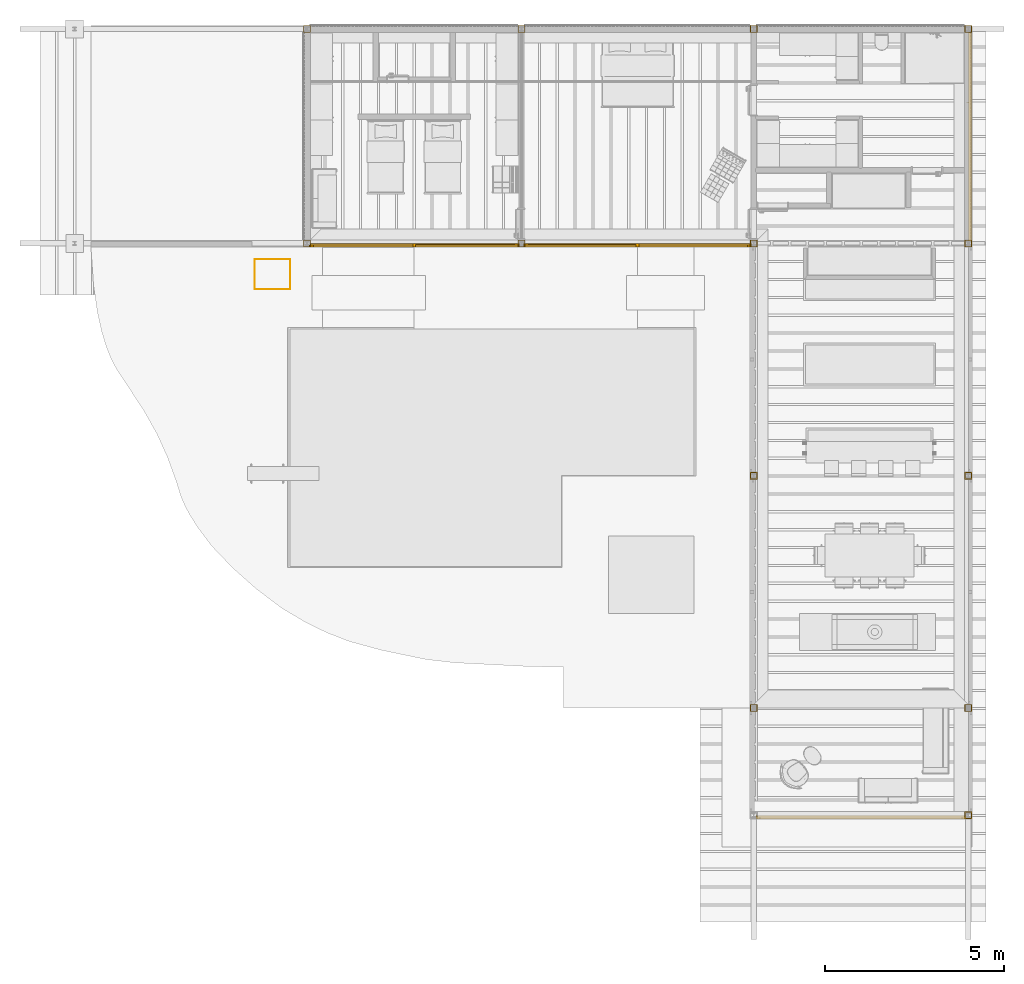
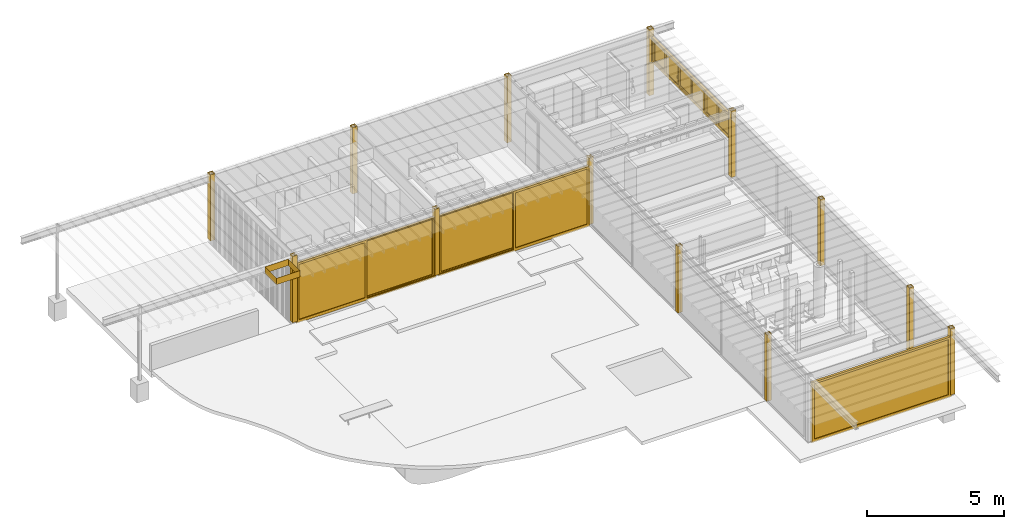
# One storey, part 20 of 28: 14 coverings, 4 windows.
"""IFC4X3_ADD2 building model written with IfcOpenShell, lengths in metres."""

from ifc_helpers import new_model, si_unit, direction, frame, frame_2d, origin_with_axes, origin_2d_with_axis, place, context, subcontext, project, spatial, polyline, rectangle, outline, extrude, faceted_brep, source, transform, mapped, material, type_object, type_shapes, element, save


model = new_model("IFC4X3_ADD2")

# Units and contexts
model_context = context("Model", 3, precision=1e-05, world=origin_with_axes(), true_north=direction((0.0, 1.0)))
body_context = subcontext(model_context, "Body", "Model", "MODEL_VIEW")
ifc_project = project(units=[si_unit("LENGTHUNIT", "METRE"), si_unit("AREAUNIT", "SQUARE_METRE"), si_unit("VOLUMEUNIT", "CUBIC_METRE"), si_unit("PLANEANGLEUNIT", "RADIAN"), si_unit("TIMEUNIT", "SECOND"), si_unit("MASSUNIT", "GRAM")], contexts=[model_context])

# Site, building, storey
site_placement = place(None, origin_with_axes())
site = spatial("IfcSite", under=ifc_project, at=site_placement, Name="Site", CompositionType="ELEMENT")
building_placement = place(site_placement, origin_with_axes())
building = spatial("IfcBuilding", under=site, at=building_placement, Name="Default Building")
storey_placement = place(building_placement, frame((0.0, 0.0, -0.08), z_axis=(0.0, 0.0, 1.0), x_axis=(1.0, 0.0, 0.0)))
storey = spatial("IfcBuildingStorey", under=building, at=storey_placement, Name="Gruendung", Elevation=-0.08)

# Windows
ifc_material = material(Name="Default")
window_type_1 = type_object("IfcWindowType", ParameterTakesPrecedence=False, PartitioningType="NOTDEFINED", PredefinedType="NOTDEFINED")
shared_shape_1 = source(origin_with_axes(), body_context, "Body", "SolidModel", [
    faceted_brep([(5.8, 0.08, 0.0), (5.8, 1.06, 0.0), (5.8, 1.06, -0.09999999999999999), (5.8, 0.08, -0.09999999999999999), (0.04000000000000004, 1.06, 0.0), (0.04000000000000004, 1.06, -0.09999999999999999), (0.04000000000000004, 0.08, 0.0), (0.04000000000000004, 0.08, -0.09999999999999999), (5.84, 0.0, -0.09999999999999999), (5.84, 1.1, -0.09999999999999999), (5.84, 1.1, 0.0), (5.84, 0.0, 0.0), (0.0, 1.1, -0.09999999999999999), (0.0, 1.1, 0.0), (0.0, 0.0, -0.09999999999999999), (0.0, 0.0, 0.0)], [[[0, 1, 2, 3]], [[1, 4, 5, 2]], [[4, 6, 7, 5]], [[6, 0, 3, 7]], [[8, 9, 10, 11]], [[9, 12, 13, 10]], [[12, 14, 15, 13]], [[8, 14, 12, 9], [2, 5, 7, 3]], [[14, 8, 11, 15]], [[13, 15, 11, 10], [1, 0, 6, 4]]]),
    faceted_brep([(5.72, 0.13, 0.0), (5.72, 1.01, 0.0), (5.72, 1.01, -0.04999999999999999), (5.72, 0.13, -0.04999999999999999), (4.88, 1.01, 0.0), (4.88, 1.01, -0.04999999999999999), (4.88, 0.13, 0.0), (4.88, 0.13, -0.04999999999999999), (5.8, 0.08, -0.04999999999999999), (5.8, 1.06, -0.04999999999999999), (5.8, 1.06, 0.0), (5.8, 0.08, 0.0), (4.8, 1.06, -0.04999999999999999), (4.8, 1.06, 0.0), (4.8, 0.08, -0.04999999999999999), (4.8, 0.08, 0.0)], [[[0, 1, 2, 3]], [[1, 4, 5, 2]], [[4, 6, 7, 5]], [[6, 0, 3, 7]], [[8, 9, 10, 11]], [[9, 12, 13, 10]], [[12, 14, 15, 13]], [[8, 14, 12, 9], [2, 5, 7, 3]], [[14, 8, 11, 15]], [[13, 15, 11, 10], [1, 0, 6, 4]]]),
    extrude(rectangle(XDim=0.88, YDim=0.8399999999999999, at=frame_2d((0.0, 0.0), x_axis=(0.0, 1.0))), frame((5.3, 0.57, -0.0265), z_axis=(0.0, 0.0, 1.0), x_axis=(1.0, 0.0, 0.0)), (0.0, 0.0, 1.0), 0.003000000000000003),
    faceted_brep([(4.8, 0.13, -0.04999999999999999), (4.8, 1.01, -0.04999999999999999), (4.8, 1.01, -0.09999999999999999), (4.8, 0.13, -0.09999999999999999), (3.92, 1.01, -0.04999999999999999), (3.92, 1.01, -0.09999999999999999), (3.92, 0.13, -0.04999999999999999), (3.92, 0.13, -0.09999999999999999), (4.88, 0.08, -0.09999999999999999), (4.88, 1.06, -0.09999999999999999), (4.88, 1.06, -0.04999999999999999), (4.88, 0.08, -0.04999999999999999), (3.84, 1.06, -0.09999999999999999), (3.84, 1.06, -0.04999999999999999), (3.84, 0.08, -0.09999999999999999), (3.84, 0.08, -0.04999999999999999)], [[[0, 1, 2, 3]], [[1, 4, 5, 2]], [[4, 6, 7, 5]], [[6, 0, 3, 7]], [[8, 9, 10, 11]], [[9, 12, 13, 10]], [[12, 14, 15, 13]], [[8, 14, 12, 9], [2, 5, 7, 3]], [[14, 8, 11, 15]], [[13, 15, 11, 10], [1, 0, 6, 4]]]),
    extrude(rectangle(XDim=0.8799999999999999, YDim=0.88, at=origin_2d_with_axis()), frame((4.359999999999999, 0.57, -0.0765), z_axis=(0.0, 0.0, 1.0), x_axis=(1.0, 0.0, 0.0)), (0.0, 0.0, 1.0), 0.003000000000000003),
    extrude(rectangle(XDim=0.05999999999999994, YDim=0.02500000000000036, at=frame_2d((0.0, 0.0), x_axis=(0.0, 1.0))), frame((3.88, 0.5700000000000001, -0.11), z_axis=(0.0, 0.0, 1.0), x_axis=(1.0, 0.0, 0.0)), (0.0, 0.0, 1.0), 0.009999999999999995),
    extrude(outline(polyline([(-0.01666666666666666, 0.07500000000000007), (-0.006666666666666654, 0.07500000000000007), (-0.006666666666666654, -0.02999999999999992), (0.02333333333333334, -0.02999999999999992), (0.02333333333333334, -0.04499999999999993), (-0.01666666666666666, -0.04499999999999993), (-0.01666666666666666, 0.07500000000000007)])), frame((3.872499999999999, 0.5325000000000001, -0.1333333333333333), z_axis=(1.0, 0.0, 0.0), x_axis=(0.0, 0.0, 1.0)), (0.0, 0.0, 1.0), 0.01500000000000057),
    faceted_brep([(3.84, 0.13, 0.0), (3.84, 1.01, 0.0), (3.84, 1.01, -0.04999999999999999), (3.84, 0.13, -0.04999999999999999), (2.96, 1.01, 0.0), (2.96, 1.01, -0.04999999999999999), (2.96, 0.13, 0.0), (2.96, 0.13, -0.04999999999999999), (3.92, 0.08, -0.04999999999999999), (3.92, 1.06, -0.04999999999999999), (3.92, 1.06, 0.0), (3.92, 0.08, 0.0), (2.88, 1.06, -0.04999999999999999), (2.88, 1.06, 0.0), (2.88, 0.08, -0.04999999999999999), (2.88, 0.08, 0.0)], [[[0, 1, 2, 3]], [[1, 4, 5, 2]], [[4, 6, 7, 5]], [[6, 0, 3, 7]], [[8, 9, 10, 11]], [[9, 12, 13, 10]], [[12, 14, 15, 13]], [[8, 14, 12, 9], [2, 5, 7, 3]], [[14, 8, 11, 15]], [[13, 15, 11, 10], [1, 0, 6, 4]]]),
    extrude(rectangle(XDim=0.8799999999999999, YDim=0.88, at=origin_2d_with_axis()), frame((3.4, 0.57, -0.0265), z_axis=(0.0, 0.0, 1.0), x_axis=(1.0, 0.0, 0.0)), (0.0, 0.0, 1.0), 0.003000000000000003),
    faceted_brep([(2.88, 0.13, -0.04999999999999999), (2.88, 1.01, -0.04999999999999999), (2.88, 1.01, -0.09999999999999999), (2.88, 0.13, -0.09999999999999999), (2.0, 1.01, -0.04999999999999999), (2.0, 1.01, -0.09999999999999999), (2.0, 0.13, -0.04999999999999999), (2.0, 0.13, -0.09999999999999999), (2.96, 0.08, -0.09999999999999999), (2.96, 1.06, -0.09999999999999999), (2.96, 1.06, -0.04999999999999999), (2.96, 0.08, -0.04999999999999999), (1.92, 1.06, -0.09999999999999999), (1.92, 1.06, -0.04999999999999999), (1.92, 0.08, -0.09999999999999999), (1.92, 0.08, -0.04999999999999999)], [[[0, 1, 2, 3]], [[1, 4, 5, 2]], [[4, 6, 7, 5]], [[6, 0, 3, 7]], [[8, 9, 10, 11]], [[9, 12, 13, 10]], [[12, 14, 15, 13]], [[8, 14, 12, 9], [2, 5, 7, 3]], [[14, 8, 11, 15]], [[13, 15, 11, 10], [1, 0, 6, 4]]]),
    extrude(rectangle(XDim=0.8799999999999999, YDim=0.88, at=origin_2d_with_axis()), frame((2.44, 0.57, -0.0765), z_axis=(0.0, 0.0, 1.0), x_axis=(1.0, 0.0, 0.0)), (0.0, 0.0, 1.0), 0.003000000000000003),
    faceted_brep([(1.92, 0.13, 0.0), (1.92, 1.01, 0.0), (1.92, 1.01, -0.04999999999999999), (1.92, 0.13, -0.04999999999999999), (1.04, 1.01, 0.0), (1.04, 1.01, -0.04999999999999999), (1.04, 0.13, 0.0), (1.04, 0.13, -0.04999999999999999), (2.0, 0.08, -0.04999999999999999), (2.0, 1.06, -0.04999999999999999), (2.0, 1.06, 0.0), (2.0, 0.08, 0.0), (0.96, 1.06, -0.04999999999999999), (0.96, 1.06, 0.0), (0.96, 0.08, -0.04999999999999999), (0.96, 0.08, 0.0)], [[[0, 1, 2, 3]], [[1, 4, 5, 2]], [[4, 6, 7, 5]], [[6, 0, 3, 7]], [[8, 9, 10, 11]], [[9, 12, 13, 10]], [[12, 14, 15, 13]], [[8, 14, 12, 9], [2, 5, 7, 3]], [[14, 8, 11, 15]], [[13, 15, 11, 10], [1, 0, 6, 4]]]),
    extrude(rectangle(XDim=0.8799999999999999, YDim=0.88, at=origin_2d_with_axis()), frame((1.48, 0.57, -0.0265), z_axis=(0.0, 0.0, 1.0), x_axis=(1.0, 0.0, 0.0)), (0.0, 0.0, 1.0), 0.003000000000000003),
    faceted_brep([(0.96, 0.13, -0.04999999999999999), (0.96, 1.01, -0.04999999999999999), (0.96, 1.01, -0.09999999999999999), (0.96, 0.13, -0.09999999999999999), (0.1200000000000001, 1.01, -0.04999999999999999), (0.1200000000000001, 1.01, -0.09999999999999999), (0.1200000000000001, 0.13, -0.04999999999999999), (0.1200000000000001, 0.13, -0.09999999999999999), (1.04, 0.08, -0.09999999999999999), (1.04, 1.06, -0.09999999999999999), (1.04, 1.06, -0.04999999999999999), (1.04, 0.08, -0.04999999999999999), (0.04000000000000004, 1.06, -0.09999999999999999), (0.04000000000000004, 1.06, -0.04999999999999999), (0.04000000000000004, 0.08, -0.09999999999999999), (0.04000000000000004, 0.08, -0.04999999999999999)], [[[0, 1, 2, 3]], [[1, 4, 5, 2]], [[4, 6, 7, 5]], [[6, 0, 3, 7]], [[8, 9, 10, 11]], [[9, 12, 13, 10]], [[12, 14, 15, 13]], [[8, 14, 12, 9], [2, 5, 7, 3]], [[14, 8, 11, 15]], [[13, 15, 11, 10], [1, 0, 6, 4]]]),
    extrude(rectangle(XDim=0.88, YDim=0.8399999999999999, at=frame_2d((0.0, 0.0), x_axis=(0.0, 1.0))), frame((0.54, 0.57, -0.0765), z_axis=(0.0, 0.0, 1.0), x_axis=(1.0, 0.0, 0.0)), (0.0, 0.0, 1.0), 0.003000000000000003),
])
type_shapes(window_type_1, [shared_shape_1])
window_1_placement = place(storey_placement, frame((25.1, 16.06, 1.58), z_axis=(0.0, 0.0, 1.0), x_axis=(0.0, 1.0, 0.0)))
element("IfcWindow", 1, at=window_1_placement, inside=storey, type_object=window_type_1, material=ifc_material, Name="Fe Stumpf 2FlgS 2Gl Eckig", context=body_context, shape_type="MappedRepresentation", body=[
    mapped(shared_shape_1, transform((0.0, 0.0, 0.0), x_axis=(1.0, 0.0, 0.0), y_axis=(0.0, 0.0, 1.0), z_axis=(0.0, -1.0, 0.0), scale=1.0)),
])
window_type_2 = type_object("IfcWindowType", ParameterTakesPrecedence=False, PartitioningType="NOTDEFINED", PredefinedType="NOTDEFINED")
shared_shape_2 = source(origin_with_axes(), body_context, "Body", "SolidModel", [
    faceted_brep([(6.34, 0.08, 0.0), (6.34, 2.64, 0.0), (6.34, 2.64, -0.09999999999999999), (6.34, 0.08, -0.09999999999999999), (0.04000000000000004, 2.64, 0.0), (0.04000000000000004, 2.64, -0.09999999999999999), (0.04000000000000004, 0.08, 0.0), (0.04000000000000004, 0.08, -0.09999999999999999), (6.38, 0.0, -0.09999999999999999), (6.38, 2.68, -0.09999999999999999), (6.38, 2.68, 0.0), (6.38, 0.0, 0.0), (0.0, 2.68, -0.09999999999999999), (0.0, 2.68, 0.0), (0.0, 0.0, -0.09999999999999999), (0.0, 0.0, 0.0)], [[[0, 1, 2, 3]], [[1, 4, 5, 2]], [[4, 6, 7, 5]], [[6, 0, 3, 7]], [[8, 9, 10, 11]], [[9, 12, 13, 10]], [[12, 14, 15, 13]], [[8, 14, 12, 9], [2, 5, 7, 3]], [[14, 8, 11, 15]], [[13, 15, 11, 10], [1, 0, 6, 4]]]),
    faceted_brep([(6.26, 0.13, 0.0), (6.26, 2.59, 0.0), (6.26, 2.59, -0.04999999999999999), (6.26, 0.13, -0.04999999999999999), (3.23, 2.59, 0.0), (3.23, 2.59, -0.04999999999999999), (3.23, 0.13, 0.0), (3.23, 0.13, -0.04999999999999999), (6.34, 0.08, -0.04999999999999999), (6.34, 2.64, -0.04999999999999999), (6.34, 2.64, 0.0), (6.34, 0.08, 0.0), (3.15, 2.64, -0.04999999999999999), (3.15, 2.64, 0.0), (3.15, 0.08, -0.04999999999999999), (3.15, 0.08, 0.0)], [[[0, 1, 2, 3]], [[1, 4, 5, 2]], [[4, 6, 7, 5]], [[6, 0, 3, 7]], [[8, 9, 10, 11]], [[9, 12, 13, 10]], [[12, 14, 15, 13]], [[8, 14, 12, 9], [2, 5, 7, 3]], [[14, 8, 11, 15]], [[13, 15, 11, 10], [1, 0, 6, 4]]]),
    extrude(rectangle(XDim=3.03, YDim=2.46, at=origin_2d_with_axis()), frame((4.745, 1.36, -0.0265), z_axis=(0.0, 0.0, 1.0), x_axis=(1.0, 0.0, 0.0)), (0.0, 0.0, 1.0), 0.003000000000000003),
    faceted_brep([(3.15, 0.13, -0.04999999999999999), (3.15, 2.59, -0.04999999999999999), (3.15, 2.59, -0.09999999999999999), (3.15, 0.13, -0.09999999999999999), (0.1200000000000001, 2.59, -0.04999999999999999), (0.1200000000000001, 2.59, -0.09999999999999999), (0.1200000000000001, 0.13, -0.04999999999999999), (0.1200000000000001, 0.13, -0.09999999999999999), (3.23, 0.08, -0.09999999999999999), (3.23, 2.64, -0.09999999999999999), (3.23, 2.64, -0.04999999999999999), (3.23, 0.08, -0.04999999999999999), (0.04000000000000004, 2.64, -0.09999999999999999), (0.04000000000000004, 2.64, -0.04999999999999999), (0.04000000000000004, 0.08, -0.09999999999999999), (0.04000000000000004, 0.08, -0.04999999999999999)], [[[0, 1, 2, 3]], [[1, 4, 5, 2]], [[4, 6, 7, 5]], [[6, 0, 3, 7]], [[8, 9, 10, 11]], [[9, 12, 13, 10]], [[12, 14, 15, 13]], [[8, 14, 12, 9], [2, 5, 7, 3]], [[14, 8, 11, 15]], [[13, 15, 11, 10], [1, 0, 6, 4]]]),
    extrude(rectangle(XDim=3.03, YDim=2.46, at=origin_2d_with_axis()), frame((1.635, 1.36, -0.0765), z_axis=(0.0, 0.0, 1.0), x_axis=(1.0, 0.0, 0.0)), (0.0, 0.0, 1.0), 0.003000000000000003),
    extrude(rectangle(XDim=0.06000000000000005, YDim=0.02499999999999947, at=frame_2d((0.0, 0.0), x_axis=(0.0, 1.0))), frame((0.07999999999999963, 1.36, -0.11), z_axis=(0.0, 0.0, 1.0), x_axis=(1.0, 0.0, 0.0)), (0.0, 0.0, 1.0), 0.009999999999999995),
    extrude(outline(polyline([(-0.01666666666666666, 0.07500000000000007), (-0.006666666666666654, 0.07500000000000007), (-0.006666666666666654, -0.02999999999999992), (0.02333333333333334, -0.02999999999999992), (0.02333333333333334, -0.04499999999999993), (-0.01666666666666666, -0.04499999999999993), (-0.01666666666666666, 0.07500000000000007)])), frame((0.07249999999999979, 1.3225, -0.1333333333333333), z_axis=(1.0, 0.0, 0.0), x_axis=(0.0, 0.0, 1.0)), (0.0, 0.0, 1.0), 0.01499999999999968),
])
type_shapes(window_type_2, [shared_shape_2])
window_2_placement = place(storey_placement, frame((12.56, 15.9, 0.0), z_axis=(0.0, 0.0, 1.0), x_axis=(1.0, 0.0, 0.0)))
element("IfcWindow", 2, at=window_2_placement, inside=storey, type_object=window_type_2, material=ifc_material, Name="Fe Stumpf 2FlgS 2Gl Eckig", context=body_context, shape_type="MappedRepresentation", body=[
    mapped(shared_shape_2, transform((0.0, 0.0, 0.0), x_axis=(1.0, 0.0, 0.0), y_axis=(0.0, 0.0, 1.0), z_axis=(0.0, -1.0, 0.0), scale=1.0)),
])
window_type_3 = type_object("IfcWindowType", ParameterTakesPrecedence=False, PartitioningType="NOTDEFINED", PredefinedType="NOTDEFINED")
shared_shape_3 = source(origin_with_axes(), body_context, "Body", "SolidModel", [
    faceted_brep([(5.84, 0.08, 0.0), (5.84, 2.64, 0.0), (5.84, 2.64, -0.09999999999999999), (5.84, 0.08, -0.09999999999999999), (0.04000000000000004, 2.64, 0.0), (0.04000000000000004, 2.64, -0.09999999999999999), (0.04000000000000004, 0.08, 0.0), (0.04000000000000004, 0.08, -0.09999999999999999), (5.88, 0.0, -0.09999999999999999), (5.88, 2.68, -0.09999999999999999), (5.88, 2.68, 0.0), (5.88, 0.0, 0.0), (0.0, 2.68, -0.09999999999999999), (0.0, 2.68, 0.0), (0.0, 0.0, -0.09999999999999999), (0.0, 0.0, 0.0)], [[[0, 1, 2, 3]], [[1, 4, 5, 2]], [[4, 6, 7, 5]], [[6, 0, 3, 7]], [[8, 9, 10, 11]], [[9, 12, 13, 10]], [[12, 14, 15, 13]], [[8, 14, 12, 9], [2, 5, 7, 3]], [[14, 8, 11, 15]], [[13, 15, 11, 10], [1, 0, 6, 4]]]),
    faceted_brep([(5.76, 0.13, -0.04999999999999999), (5.76, 2.59, -0.04999999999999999), (5.76, 2.59, -0.09999999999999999), (5.76, 0.13, -0.09999999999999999), (2.98, 2.59, -0.04999999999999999), (2.98, 2.59, -0.09999999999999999), (2.98, 0.13, -0.04999999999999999), (2.98, 0.13, -0.09999999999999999), (5.84, 0.08, -0.09999999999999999), (5.84, 2.64, -0.09999999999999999), (5.84, 2.64, -0.04999999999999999), (5.84, 0.08, -0.04999999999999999), (2.9, 2.64, -0.09999999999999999), (2.9, 2.64, -0.04999999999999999), (2.9, 0.08, -0.09999999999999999), (2.9, 0.08, -0.04999999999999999)], [[[0, 1, 2, 3]], [[1, 4, 5, 2]], [[4, 6, 7, 5]], [[6, 0, 3, 7]], [[8, 9, 10, 11]], [[9, 12, 13, 10]], [[12, 14, 15, 13]], [[8, 14, 12, 9], [2, 5, 7, 3]], [[14, 8, 11, 15]], [[13, 15, 11, 10], [1, 0, 6, 4]]]),
    extrude(rectangle(XDim=2.78, YDim=2.46, at=origin_2d_with_axis()), frame((4.37, 1.36, -0.0765), z_axis=(0.0, 0.0, 1.0), x_axis=(1.0, 0.0, 0.0)), (0.0, 0.0, 1.0), 0.003000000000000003),
    extrude(rectangle(XDim=0.06000000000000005, YDim=0.02500000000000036, at=frame_2d((0.0, 0.0), x_axis=(0.0, 1.0))), frame((5.800000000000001, 1.36, -0.11), z_axis=(0.0, 0.0, 1.0), x_axis=(1.0, 0.0, 0.0)), (0.0, 0.0, 1.0), 0.009999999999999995),
    extrude(outline(polyline([(-0.01666666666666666, 0.07500000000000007), (-0.006666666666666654, 0.07500000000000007), (-0.006666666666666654, -0.02999999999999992), (0.02333333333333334, -0.02999999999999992), (0.02333333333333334, -0.04499999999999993), (-0.01666666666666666, -0.04499999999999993), (-0.01666666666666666, 0.07500000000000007)])), frame((5.7925, 1.3225, -0.1333333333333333), z_axis=(1.0, 0.0, 0.0), x_axis=(0.0, 0.0, 1.0)), (0.0, 0.0, 1.0), 0.01500000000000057),
    faceted_brep([(2.9, 0.13, 0.0), (2.9, 2.59, 0.0), (2.9, 2.59, -0.04999999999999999), (2.9, 0.13, -0.04999999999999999), (0.1199999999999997, 2.59, 0.0), (0.1200000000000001, 2.59, -0.04999999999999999), (0.1199999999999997, 0.13, 0.0), (0.1200000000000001, 0.13, -0.04999999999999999), (2.98, 0.08, -0.04999999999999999), (2.98, 2.64, -0.04999999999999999), (2.98, 2.64, 0.0), (2.98, 0.08, 0.0), (0.04000000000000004, 2.64, -0.04999999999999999), (0.04000000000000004, 2.64, 0.0), (0.04000000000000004, 0.08, -0.04999999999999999), (0.04000000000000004, 0.08, 0.0)], [[[0, 1, 2, 3]], [[1, 4, 5, 2]], [[4, 6, 7, 5]], [[6, 0, 3, 7]], [[8, 9, 10, 11]], [[9, 12, 13, 10]], [[12, 14, 15, 13]], [[8, 14, 12, 9], [2, 5, 7, 3]], [[14, 8, 11, 15]], [[13, 15, 11, 10], [1, 0, 6, 4]]]),
    extrude(rectangle(XDim=2.78, YDim=2.46, at=origin_2d_with_axis()), frame((1.51, 1.36, -0.0265), z_axis=(0.0, 0.0, 1.0), x_axis=(1.0, 0.0, 0.0)), (0.0, 0.0, 1.0), 0.003000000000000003),
])
type_shapes(window_type_3, [shared_shape_3])
window_3_placement = place(storey_placement, frame((6.559999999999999, 15.9, 0.0), z_axis=(0.0, 0.0, 1.0), x_axis=(1.0, 0.0, 0.0)))
element("IfcWindow", 3, at=window_3_placement, inside=storey, type_object=window_type_3, material=ifc_material, Name="Fe Stumpf 2FlgS 2Gl Eckig", context=body_context, shape_type="MappedRepresentation", body=[
    mapped(shared_shape_3, transform((0.0, 0.0, 0.0), x_axis=(1.0, 0.0, 0.0), y_axis=(0.0, 0.0, 1.0), z_axis=(0.0, -1.0, 0.0), scale=1.0)),
])
window_type_4 = type_object("IfcWindowType", ParameterTakesPrecedence=False, PartitioningType="NOTDEFINED", PredefinedType="NOTDEFINED")
shared_shape_4 = source(origin_with_axes(), body_context, "Body", "SolidModel", [
    faceted_brep([(5.84, 0.08, 0.0), (5.84, 2.64, 0.0), (5.84, 2.64, -0.09999999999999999), (5.84, 0.08, -0.09999999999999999), (0.04000000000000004, 2.64, 0.0), (0.04000000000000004, 2.64, -0.09999999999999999), (0.04000000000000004, 0.08, 0.0), (0.04000000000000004, 0.08, -0.09999999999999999), (5.88, 0.0, -0.09999999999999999), (5.88, 2.68, -0.09999999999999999), (5.88, 2.68, 0.0), (5.88, 0.0, 0.0), (0.0, 2.68, -0.09999999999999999), (0.0, 2.68, 0.0), (0.0, 0.0, -0.09999999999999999), (0.0, 0.0, 0.0)], [[[0, 1, 2, 3]], [[1, 4, 5, 2]], [[4, 6, 7, 5]], [[6, 0, 3, 7]], [[8, 9, 10, 11]], [[9, 12, 13, 10]], [[12, 14, 15, 13]], [[8, 14, 12, 9], [2, 5, 7, 3]], [[14, 8, 11, 15]], [[13, 15, 11, 10], [1, 0, 6, 4]]]),
    faceted_brep([(5.76, 0.13, 0.0), (5.76, 2.59, 0.0), (5.76, 2.59, -0.04999999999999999), (5.76, 0.13, -0.04999999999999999), (0.1199999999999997, 2.59, 0.0), (0.1200000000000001, 2.59, -0.04999999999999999), (0.1199999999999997, 0.13, 0.0), (0.1200000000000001, 0.13, -0.04999999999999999), (5.84, 0.08, -0.04999999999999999), (5.84, 2.64, -0.04999999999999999), (5.84, 2.64, 0.0), (5.84, 0.08, 0.0), (0.04000000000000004, 2.64, -0.04999999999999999), (0.04000000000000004, 2.64, 0.0), (0.04000000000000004, 0.08, -0.04999999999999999), (0.04000000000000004, 0.08, 0.0)], [[[0, 1, 2, 3]], [[1, 4, 5, 2]], [[4, 6, 7, 5]], [[6, 0, 3, 7]], [[8, 9, 10, 11]], [[9, 12, 13, 10]], [[12, 14, 15, 13]], [[8, 14, 12, 9], [2, 5, 7, 3]], [[14, 8, 11, 15]], [[13, 15, 11, 10], [1, 0, 6, 4]]]),
    extrude(rectangle(XDim=5.64, YDim=2.46, at=origin_2d_with_axis()), frame((2.94, 1.36, -0.02650000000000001), z_axis=(0.0, 0.0, 1.0), x_axis=(1.0, 0.0, 0.0)), (0.0, 0.0, 1.0), 0.003000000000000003),
])
type_shapes(window_type_4, [shared_shape_4])
window_4_placement = place(storey_placement, frame((19.06000000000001, -0.09999999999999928, 0.0), z_axis=(0.0, 0.0, 1.0), x_axis=(1.0, 0.0, 0.0)))
element("IfcWindow", 4, at=window_4_placement, inside=storey, type_object=window_type_4, material=ifc_material, Name="Fe Stumpf 2FlgS 2Gl Eckig", context=body_context, shape_type="MappedRepresentation", body=[
    mapped(shared_shape_4, transform((0.0, 0.0, 0.0), x_axis=(1.0, 0.0, 0.0), y_axis=(0.0, 0.0, 1.0), z_axis=(0.0, -1.0, 0.0), scale=1.0)),
])

# Coverings
covering_type_1 = type_object("IfcCoveringType", Name="Default 0", PredefinedType="NOTDEFINED", material=ifc_material)
for number, where, z_axis, x_axis, name in (
    (5, (12.400001, 16.1, 0.08), (0.0, 0.0, 1.0), (0.0, -1.0, 0.0), "IfcCovering"),
    (6, (12.400001, 22.1, 0.08), (0.0, 0.0, 1.0), (0.0, -1.0, 0.0), "IfcCovering"),
    (7, (18.900001, 22.1, 0.08), (0.0, 0.0, 1.0), (0.0, -1.0, 0.0), "IfcCovering"),
):
    element("IfcCovering", number, at=place(storey_placement, frame(where, z_axis=z_axis, x_axis=x_axis)), inside=storey, type_object=covering_type_1, Name=name, context=body_context, shape_type="Brep", body=[
        faceted_brep([(0.0, 0.0, 2.96), (0.0, 0.1999990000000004, 2.96), (0.0, 0.1999990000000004, 0.0), (0.0, 0.0, 0.0), (0.1999990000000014, 0.1999990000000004, 2.96), (0.1999990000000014, 0.1999990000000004, 0.0), (0.1999990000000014, 0.0, 2.96), (0.1999990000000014, 0.0, 0.0), (0.1799990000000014, 0.1799990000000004, 2.96), (0.02000000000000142, 0.1799990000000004, 2.96), (0.02000000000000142, 0.1799990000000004, 0.0), (0.1799990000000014, 0.1799990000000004, 0.0), (0.02000000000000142, 0.02000000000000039, 2.96), (0.02, 0.02, 0.0), (0.1799990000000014, 0.02000000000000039, 2.96), (0.1799990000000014, 0.02000000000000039, 0.0)], [[[0, 1, 2, 3]], [[1, 4, 5, 2]], [[4, 6, 7, 5]], [[6, 0, 3, 7]], [[8, 9, 10, 11]], [[9, 12, 13, 10]], [[12, 14, 15, 13]], [[14, 8, 11, 15]], [[9, 8, 14, 12], [1, 0, 6, 4]], [[15, 11, 10, 13], [7, 3, 2, 5]]], outer=[[True], [True], [True], [True], [True], [True], [True], [True], [False, True], [False, True]]),
    ])
covering_1_placement = place(storey_placement, frame((24.9, 21.9, 0.08), z_axis=(0.0, 0.0, 1.0), x_axis=(1.0, 0.0, 0.0)))
element("IfcCovering", 8, at=covering_1_placement, inside=storey, type_object=covering_type_1, Name="IfcCovering", context=body_context, shape_type="Brep", body=[
    faceted_brep([(0.1999990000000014, 0.0, 2.96), (0.0, 0.0, 2.96), (0.0, 0.0, 0.0), (0.1999990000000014, 0.0, 0.0), (0.0, 0.1999990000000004, 2.96), (0.0, 0.1999990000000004, 0.0), (0.1999990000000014, 0.1999990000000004, 2.96), (0.1999990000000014, 0.1999990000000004, 0.0), (0.02000000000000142, 0.1799990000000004, 2.96), (0.02000000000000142, 0.02000000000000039, 2.96), (0.02, 0.02, 0.0), (0.02000000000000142, 0.1799990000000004, 0.0), (0.1799990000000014, 0.02000000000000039, 2.96), (0.1799990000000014, 0.02000000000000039, 0.0), (0.1799990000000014, 0.1799990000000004, 2.96), (0.1799990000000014, 0.1799990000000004, 0.0)], [[[0, 1, 2, 3]], [[1, 4, 5, 2]], [[4, 6, 7, 5]], [[6, 0, 3, 7]], [[8, 9, 10, 11]], [[9, 12, 13, 10]], [[12, 14, 15, 13]], [[14, 8, 11, 15]], [[9, 8, 14, 12], [1, 0, 6, 4]], [[15, 11, 10, 13], [7, 3, 2, 5]]], outer=[[True], [True], [True], [True], [True], [True], [True], [True], [False, True], [False, True]]),
])
for number, where, z_axis, x_axis, name in (
    (9, (6.400001, 22.1, 0.08), (0.0, 0.0, 1.0), (0.0, -1.0, 0.0), "IfcCovering"),
    (10, (6.400001, 16.1, 0.08), (0.0, 0.0, 1.0), (0.0, -1.0, 0.0), "IfcCovering"),
):
    element("IfcCovering", number, at=place(storey_placement, frame(where, z_axis=z_axis, x_axis=x_axis)), inside=storey, type_object=covering_type_1, Name=name, context=body_context, shape_type="Brep", body=[
        faceted_brep([(0.0, 0.0, 2.96), (0.0, 0.1999990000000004, 2.96), (0.0, 0.1999990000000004, 0.0), (0.0, 0.0, 0.0), (0.1999990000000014, 0.1999990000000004, 2.96), (0.1999990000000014, 0.1999990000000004, 0.0), (0.1999990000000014, 0.0, 2.96), (0.1999990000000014, 0.0, 0.0), (0.1799990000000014, 0.1799990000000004, 2.96), (0.02000000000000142, 0.1799990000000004, 2.96), (0.02000000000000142, 0.1799990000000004, 0.0), (0.1799990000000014, 0.1799990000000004, 0.0), (0.02000000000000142, 0.02000000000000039, 2.96), (0.02, 0.02, 0.0), (0.1799990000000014, 0.02000000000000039, 2.96), (0.1799990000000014, 0.02000000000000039, 0.0)], [[[0, 1, 2, 3]], [[1, 4, 5, 2]], [[4, 6, 7, 5]], [[6, 0, 3, 7]], [[8, 9, 10, 11]], [[9, 12, 13, 10]], [[12, 14, 15, 13]], [[14, 8, 11, 15]], [[9, 8, 14, 12], [1, 0, 6, 4]], [[15, 11, 10, 13], [7, 3, 2, 5]]], outer=[[True], [True], [True], [True], [True], [True], [True], [True], [False, True], [False, True]]),
    ])
covering_2_placement = place(storey_placement, frame((18.900001, 15.900001, 0.08), z_axis=(0.0, 0.0, 1.0), x_axis=(1.0, 0.0, 0.0)))
element("IfcCovering", 11, at=covering_2_placement, inside=storey, type_object=covering_type_1, Name="IfcCovering", context=body_context, shape_type="Brep", body=[
    faceted_brep([(0.0, 0.1999990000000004, 2.96), (0.1999990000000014, 0.1999990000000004, 2.96), (0.1999990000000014, 0.1999990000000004, 0.0), (0.0, 0.1999990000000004, 0.0), (0.1999990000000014, 0.0, 2.96), (0.1999990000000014, 0.0, 0.0), (0.0, 0.0, 2.96), (0.0, 0.0, 0.0), (0.1799990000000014, 0.02000000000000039, 2.96), (0.1799990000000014, 0.1799990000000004, 2.96), (0.1799990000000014, 0.1799990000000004, 0.0), (0.1799990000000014, 0.02000000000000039, 0.0), (0.02000000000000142, 0.1799990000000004, 2.96), (0.02000000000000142, 0.1799990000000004, 0.0), (0.02000000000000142, 0.02000000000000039, 2.96), (0.02, 0.02, 0.0)], [[[0, 1, 2, 3]], [[1, 4, 5, 2]], [[4, 6, 7, 5]], [[6, 0, 3, 7]], [[8, 9, 10, 11]], [[9, 12, 13, 10]], [[12, 14, 15, 13]], [[14, 8, 11, 15]], [[9, 8, 14, 12], [1, 0, 6, 4]], [[15, 11, 10, 13], [7, 3, 2, 5]]], outer=[[True], [True], [True], [True], [True], [True], [True], [True], [False, True], [False, True]]),
])
for number, where, z_axis, x_axis, name in (
    (12, (24.9, 15.9, 0.08), (0.0, 0.0, 1.0), (1.0, 0.0, 0.0), "IfcCovering"),
    (13, (18.9, 9.4, 0.08), (0.0, 0.0, 1.0), (1.0, 0.0, 0.0), "IfcCovering"),
    (14, (24.9, 9.4, 0.08), (0.0, 0.0, 1.0), (1.0, 0.0, 0.0), "IfcCovering"),
    (15, (18.9, 2.9, 0.08), (0.0, 0.0, 1.0), (1.0, 0.0, 0.0), "IfcCovering"),
    (16, (24.9, 2.9, 0.08), (0.0, 0.0, 1.0), (1.0, 0.0, 0.0), "IfcCovering"),
):
    element("IfcCovering", number, at=place(storey_placement, frame(where, z_axis=z_axis, x_axis=x_axis)), inside=storey, type_object=covering_type_1, Name=name, context=body_context, shape_type="Brep", body=[
        faceted_brep([(0.1999990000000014, 0.0, 2.96), (0.0, 0.0, 2.96), (0.0, 0.0, 0.0), (0.1999990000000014, 0.0, 0.0), (0.0, 0.1999990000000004, 2.96), (0.0, 0.1999990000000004, 0.0), (0.1999990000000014, 0.1999990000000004, 2.96), (0.1999990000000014, 0.1999990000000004, 0.0), (0.02000000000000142, 0.1799990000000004, 2.96), (0.02000000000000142, 0.02000000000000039, 2.96), (0.02, 0.02, 0.0), (0.02000000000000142, 0.1799990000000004, 0.0), (0.1799990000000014, 0.02000000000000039, 2.96), (0.1799990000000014, 0.02000000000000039, 0.0), (0.1799990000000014, 0.1799990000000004, 2.96), (0.1799990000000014, 0.1799990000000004, 0.0)], [[[0, 1, 2, 3]], [[1, 4, 5, 2]], [[4, 6, 7, 5]], [[6, 0, 3, 7]], [[8, 9, 10, 11]], [[9, 12, 13, 10]], [[12, 14, 15, 13]], [[14, 8, 11, 15]], [[9, 8, 14, 12], [1, 0, 6, 4]], [[15, 11, 10, 13], [7, 3, 2, 5]]], outer=[[True], [True], [True], [True], [True], [True], [True], [True], [False, True], [False, True]]),
    ])
covering_3_placement = place(storey_placement, frame((24.900001, -0.09999899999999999, 0.08), z_axis=(0.0, 0.0, 1.0), x_axis=(1.0, 0.0, 0.0)))
element("IfcCovering", 17, at=covering_3_placement, inside=storey, type_object=covering_type_1, Name="IfcCovering", context=body_context, shape_type="Brep", body=[
    faceted_brep([(0.0, 0.1999990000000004, 2.96), (0.1999990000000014, 0.1999990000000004, 2.96), (0.1999990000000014, 0.1999990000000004, 0.0), (0.0, 0.1999990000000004, 0.0), (0.1999990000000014, 0.0, 2.96), (0.1999990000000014, 0.0, 0.0), (0.0, 0.0, 2.96), (0.0, 0.0, 0.0), (0.1799990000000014, 0.02000000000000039, 2.96), (0.1799990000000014, 0.1799990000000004, 2.96), (0.1799990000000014, 0.1799990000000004, 0.0), (0.1799990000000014, 0.02000000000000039, 0.0), (0.02000000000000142, 0.1799990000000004, 2.96), (0.02000000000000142, 0.1799990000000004, 0.0), (0.02000000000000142, 0.02000000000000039, 2.96), (0.02, 0.02, 0.0)], [[[0, 1, 2, 3]], [[1, 4, 5, 2]], [[4, 6, 7, 5]], [[6, 0, 3, 7]], [[8, 9, 10, 11]], [[9, 12, 13, 10]], [[12, 14, 15, 13]], [[14, 8, 11, 15]], [[9, 8, 14, 12], [1, 0, 6, 4]], [[15, 11, 10, 13], [7, 3, 2, 5]]], outer=[[True], [True], [True], [True], [True], [True], [True], [True], [False, True], [False, True]]),
])
covering_type_2 = type_object("IfcCoveringType", Name="Default 0.850534", PredefinedType="NOTDEFINED", material=ifc_material)
covering_4_placement = place(storey_placement, frame((5.035071, 14.712466, 2.98), z_axis=(0.0, 0.0, 1.0), x_axis=(1.0, 0.0, 0.0)))
element("IfcCovering", 18, at=covering_4_placement, inside=storey, type_object=covering_type_2, Name="IfcCovering", context=body_context, shape_type="Brep", body=[
    faceted_brep([(0.0, 0.8505339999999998, 0.285), (0.9949289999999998, 0.8505339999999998, 0.285), (0.9949289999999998, 0.8505339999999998, 0.0), (0.0, 0.8505339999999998, 0.0), (0.9949289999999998, 0.0, 0.285), (0.9949289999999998, 0.0, 0.0), (0.0, 0.0, 0.285), (0.0, 0.0, 0.0), (0.9899289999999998, 0.005000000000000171, 0.285), (0.9899289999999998, 0.8455339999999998, 0.285), (0.9899289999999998, 0.8455339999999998, 0.0), (0.9899289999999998, 0.005000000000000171, 0.0), (0.004999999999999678, 0.8455339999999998, 0.285), (0.004999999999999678, 0.8455339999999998, 0.0), (0.004999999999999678, 0.005000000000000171, 0.285), (0.004999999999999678, 0.005000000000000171, 0.0)], [[[0, 1, 2, 3]], [[1, 4, 5, 2]], [[4, 6, 7, 5]], [[6, 0, 3, 7]], [[8, 9, 10, 11]], [[9, 12, 13, 10]], [[12, 14, 15, 13]], [[14, 8, 11, 15]], [[9, 8, 14, 12], [1, 0, 6, 4]], [[15, 11, 10, 13], [7, 3, 2, 5]]], outer=[[True], [True], [True], [True], [True], [True], [True], [True], [False, True], [False, True]]),
])

save(model, "model.ifc")
